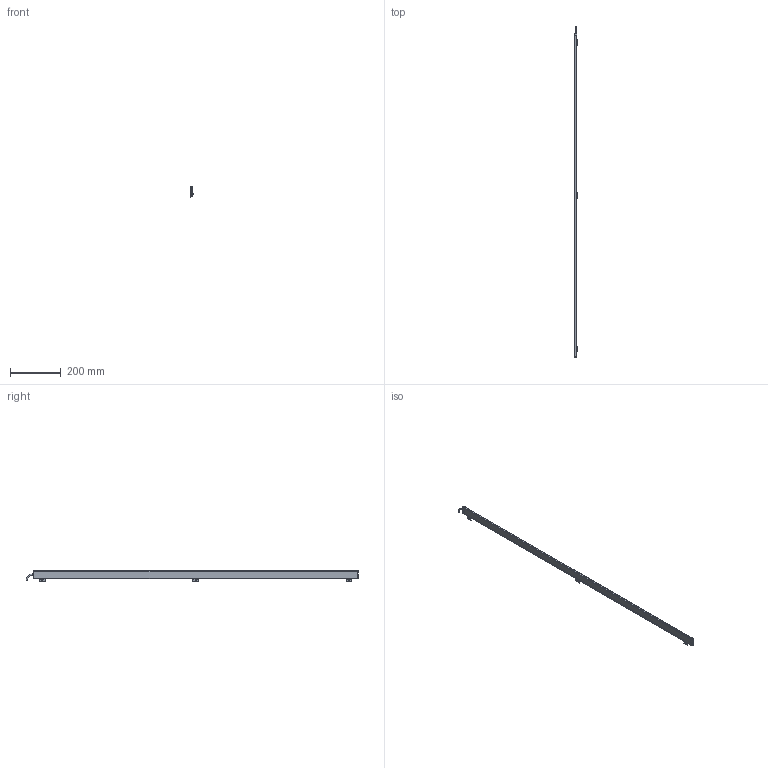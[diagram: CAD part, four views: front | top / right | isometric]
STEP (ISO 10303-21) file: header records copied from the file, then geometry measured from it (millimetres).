
FILE_DESCRIPTION (( 'STEP AP214' ), '1' );
FILE_NAME ('ILG-N-K1-1281mm.STEP', '2017-07-10T13:23:02', ( '' ), ( '' ), 'SwSTEP 2.0', 'SolidWorks 2016', '' );
FILE_SCHEMA (( 'AUTOMOTIVE_DESIGN' ));
Length unit declared in the file: millimetre
Products named in the file (1): ILG-N-K1-1281mm
Bounding box: 10.23 x 1309.25 x 42.41 mm (x, y, z)
Volume: 145592.2 mm3; surface area: 215793.3 mm2
Topology: 12 solids, 12 shells, 532 faces, 1348 edges, 836 vertices
Faces by surface type: plane 296, cylinder 162, cone 64, torus 10
Entity records: 21865 total; most frequent: CARTESIAN_POINT 2865, DIRECTION 2794, ORIENTED_EDGE 2680, EDGE_CURVE 1340, AXIS2_PLACEMENT_3D 973, VECTOR 848, LINE 848, VERTEX_POINT 836
